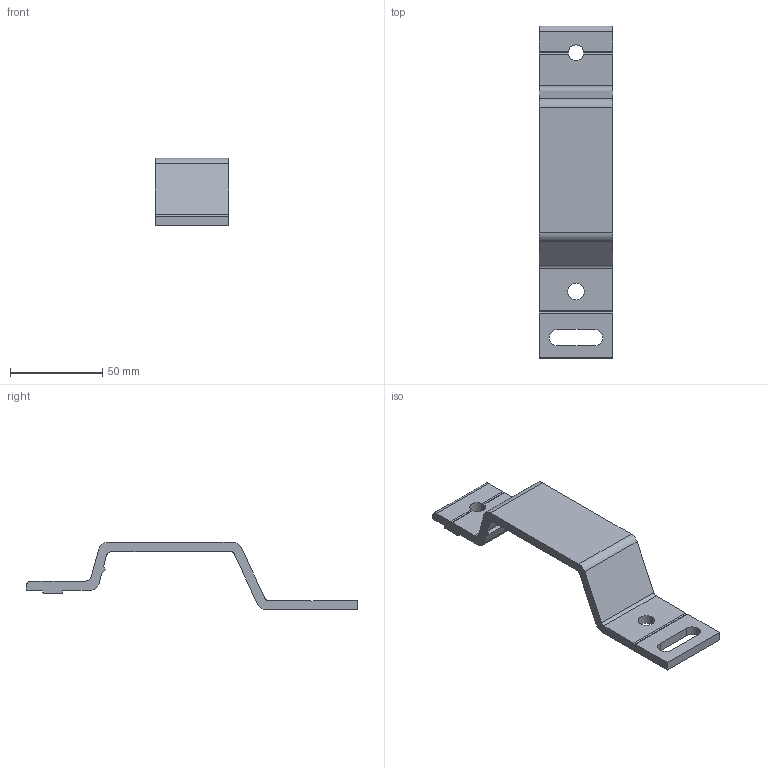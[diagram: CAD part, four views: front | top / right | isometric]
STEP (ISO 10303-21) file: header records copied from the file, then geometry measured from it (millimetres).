
FILE_DESCRIPTION (( 'STEP AP214' ), '1' );
FILE_NAME ('FAVBS 40M.step', '2017-04-05T07:59:58', ( '' ), ( '' ), 'SwSTEP 2.0', 'SolidWorks 2015', '' );
FILE_SCHEMA (( 'AUTOMOTIVE_DESIGN' ));
Length unit declared in the file: millimetre
Products named in the file (1): FAVBS 40M
Bounding box: 40 x 180 x 36.5 mm (x, y, z)
Volume: 41728.6 mm3; surface area: 19701 mm2
Topology: 1 solids, 1 shells, 49 faces, 142 edges, 94 vertices
Faces by surface type: plane 31, cylinder 18
Entity records: 1662 total; most frequent: CARTESIAN_POINT 298, ORIENTED_EDGE 284, DIRECTION 274, EDGE_CURVE 142, LINE 102, VECTOR 102, VERTEX_POINT 94, AXIS2_PLACEMENT_3D 86
